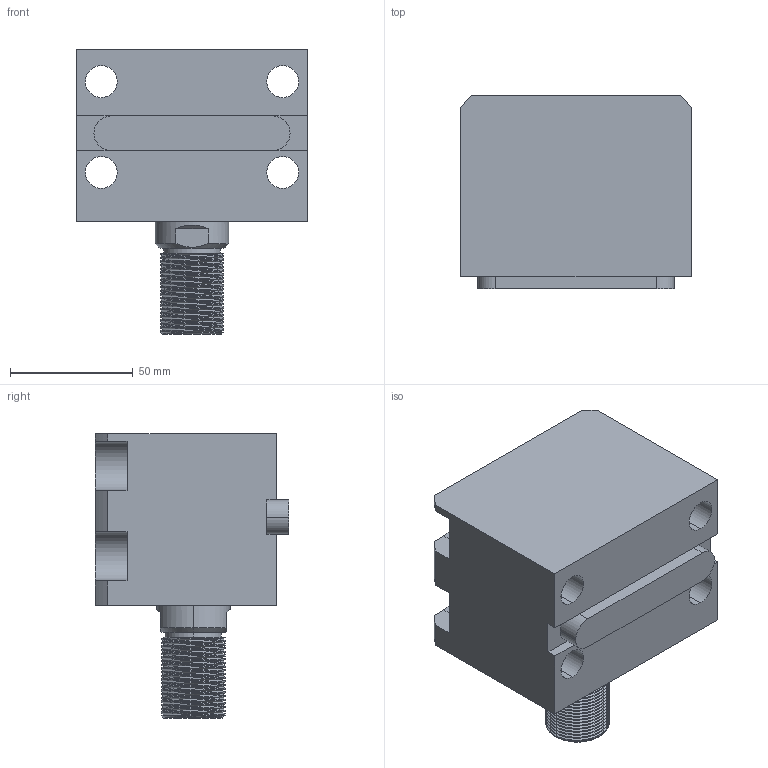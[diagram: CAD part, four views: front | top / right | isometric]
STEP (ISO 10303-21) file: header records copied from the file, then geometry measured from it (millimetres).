
FILE_DESCRIPTION (( 'STEP AP203' ), '1' );
FILE_NAME ('CHTB-LA50-10W.STEP', '2018-05-18T00:16:59', ( '' ), ( '' ), 'SwSTEP 2.0', 'SolidWorks 2015', '' );
FILE_SCHEMA (( 'CONFIG_CONTROL_DESIGN' ));
Length unit declared in the file: millimetre
Products named in the file (4): 活塞杆LA50-10W; CHTM-SDMA50QG; 掛极LA50-10W; CHTB-LA50-10W
Assembly tree (3 placements, depth 2):
  CHTB-LA50-10W
    掛极LA50-10W
    活塞杆LA50-10W
    CHTM-SDMA50QG
Bounding box: 94 x 79 x 116 mm (x, y, z)
Volume: 445208.1 mm3; surface area: 92620.1 mm2
Topology: 3 solids, 3 shells, 246 faces, 674 edges, 449 vertices
Faces by surface type: cylinder 136, plane 56, cone 22, bspline 16, torus 16
Entity records: 15104 total; most frequent: CARTESIAN_POINT 8922, ORIENTED_EDGE 1340, DIRECTION 1080, EDGE_CURVE 670, VERTEX_POINT 449, AXIS2_PLACEMENT_3D 418, EDGE_LOOP 279, ADVANCED_FACE 246
